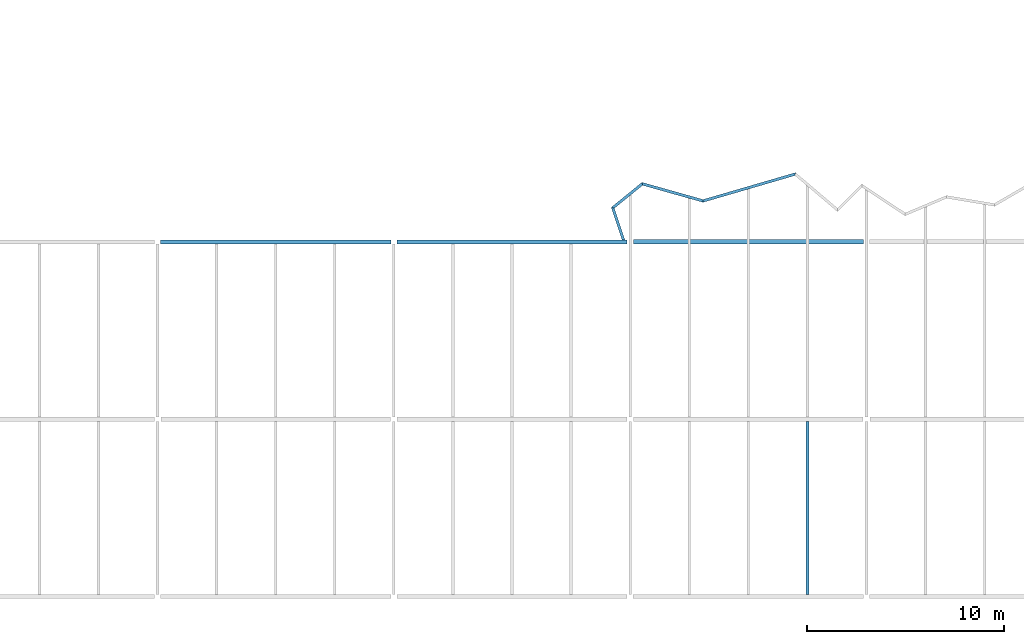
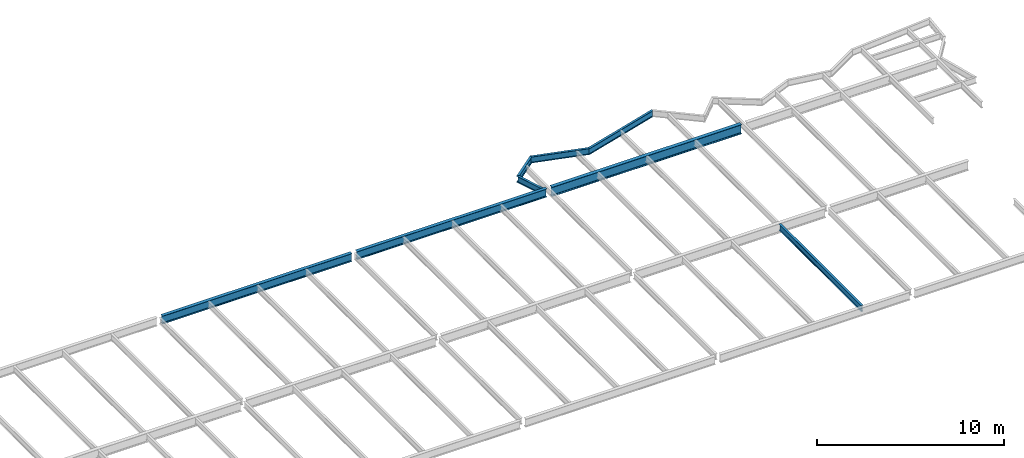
# One storey, part 17 of 21: 8 beams.
"""IFC2X3 building model written with IfcOpenShell, lengths in millimetres."""

import ifcopenshell
import ifcopenshell.guid

model = None  # the IFC model being written
_history = None  # IfcOwnerHistory: only IFC2X3 demands one
_inside = {}  # id of a spatial element -> (the spatial element, [elements in it])
_under = {}  # id of a project, library or spatial element -> (it, [spatial elements below it])
_declared = {}  # id of a project -> (the project, [libraries it declares])
_typed = {}  # id of a type object -> (the type object, [elements of that type])
_made_of = {}  # id of a material, layer set ... -> (it, [elements and type objects made of it])


def new_model(schema):
    """Start an empty IFC model of exactly this schema.

    Asked for "IFC4X3", IfcOpenShell would pick the latest addendum, in which some entities
    have other attributes; the version numbers below select the first issue.
    IFC2X3 requires an IfcOwnerHistory on every rooted entity: one is made here for all.
    """
    global model, _history
    if schema == "IFC4X3":
        model = ifcopenshell.file(schema_version=(4, 3, 0, 0))
    else:
        model = ifcopenshell.file(schema=schema)
    _inside.clear()
    _under.clear()
    _declared.clear()
    _typed.clear()
    _made_of.clear()
    _history = None
    if model.schema == "IFC2X3":
        org = make("IfcOrganization", Name="unknown")
        user = make(
            "IfcPersonAndOrganization",
            ThePerson=make("IfcPerson", FamilyName="unknown"),
            TheOrganization=org,
        )
        app = make(
            "IfcApplication",
            ApplicationDeveloper=org,
            Version="unknown",
            ApplicationFullName="unknown",
            ApplicationIdentifier="unknown",
        )
        _history = make(
            "IfcOwnerHistory",
            OwningUser=user,
            OwningApplication=app,
            ChangeAction="ADDED",
            CreationDate=0,
        )
    return model


def make(cls, **values):
    """One entity of the class cls with the attributes given. An attribute that is None is left unset."""
    return model.create_entity(
        cls, **{name: value for name, value in values.items() if value is not None}
    )


def rooted(cls, **values):
    """An entity with a GlobalId (a new one), such as an element, a storey or a relation."""
    return make(cls, GlobalId=ifcopenshell.guid.new(), OwnerHistory=_history, **values)


def si_unit(unit_type, name, prefix=None):
    """IfcSIUnit, for example si_unit("LENGTHUNIT", "METRE", prefix="MILLI")."""
    return make("IfcSIUnit", UnitType=unit_type, Prefix=prefix, Name=name)


def assignment(units):
    """IfcUnitAssignment: the units of a project."""
    return None if units is None else make("IfcUnitAssignment", Units=units)


def point(xyz):
    """IfcCartesianPoint."""
    return None if xyz is None else make("IfcCartesianPoint", Coordinates=xyz)


def direction(xyz):
    """IfcDirection."""
    return None if xyz is None else make("IfcDirection", DirectionRatios=xyz)


def frame(location, z_axis=None, x_axis=None):
    """IfcAxis2Placement3D, a coordinate frame: its origin and axes. An axis left out is left unset."""
    return make(
        "IfcAxis2Placement3D",
        Location=point(location),
        Axis=direction(z_axis),
        RefDirection=direction(x_axis),
    )


def origin():
    """The frame at (0, 0, 0) with its axes left unset."""
    return frame((0.0, 0.0, 0.0))


def place(relative_to, where):
    """IfcLocalPlacement: puts the frame where relative to a parent placement (None: the world)."""
    return make(
        "IfcLocalPlacement", PlacementRelTo=relative_to, RelativePlacement=where
    )


def context(
    kind, dimensions, precision=None, world=None, true_north=None, identifier=None
):
    """IfcGeometricRepresentationContext, for example the 3D "Model" context."""
    return make(
        "IfcGeometricRepresentationContext",
        ContextIdentifier=identifier,
        ContextType=kind,
        CoordinateSpaceDimension=dimensions,
        Precision=precision,
        WorldCoordinateSystem=world,
        TrueNorth=true_north,
    )


def project(units=None, contexts=None):
    """IfcProject with its units and contexts."""
    return rooted(
        "IfcProject",
        Name="project",
        RepresentationContexts=contexts,
        UnitsInContext=assignment(units),
    )


def spatial(cls, under=None, at=None, **own):
    """A site, building, storey or space (cls), placed at a placement, below another one or the project."""
    s = rooted(cls, ObjectPlacement=at, **own)
    if under is not None:
        _under.setdefault(under.id(), (under, []))[1].append(s)
    return s


def faces_of(points, faces, orient=None, outer=None):
    """IfcFace entities. A face is a list of loops; a loop is a list of indices into points, from 0.

    orient and outer hold one flag for each loop. By default every Orientation is true, the
    first loop of a face is its IfcFaceOuterBound and the others are IfcFaceBound.
    """
    made = []
    for i, loops in enumerate(faces):
        bounds = []
        for j, loop in enumerate(loops):
            is_outer = j == 0 if outer is None else outer[i][j]
            bounds.append(
                make(
                    "IfcFaceOuterBound" if is_outer else "IfcFaceBound",
                    Bound=make("IfcPolyLoop", Polygon=[points[k] for k in loop]),
                    Orientation=True if orient is None else orient[i][j],
                )
            )
        made.append(make("IfcFace", Bounds=bounds))
    return made


def faceted_brep(points, faces, orient=None, outer=None, voids=None):
    """IfcFacetedBrep: a solid bounded by flat faces; with voids (closed shells), ...WithVoids."""
    shared = [point(p) for p in points]
    hull = make("IfcClosedShell", CfsFaces=faces_of(shared, faces, orient, outer))
    if voids is None:
        return make("IfcFacetedBrep", Outer=hull)
    return make(
        "IfcFacetedBrepWithVoids",
        Outer=hull,
        Voids=[
            make(cls, CfsFaces=faces_of(shared, fs, o, b)) for cls, fs, o, b in voids
        ],
    )


def shape(context_of_items, identifier, shape_type, items):
    """IfcShapeRepresentation: the items that make up one representation, for example the "Body"."""
    return make(
        "IfcShapeRepresentation",
        ContextOfItems=context_of_items,
        RepresentationIdentifier=identifier,
        RepresentationType=shape_type,
        Items=items,
    )


def material(Name=None, Category=None):
    """IfcMaterial."""
    return make("IfcMaterial", Name=Name, Category=Category)


def made_of(thing, what):
    """Note that an element or type object is made of a material, layer set ...; save() writes the relation."""
    if what is not None:
        _made_of.setdefault(what.id(), (what, []))[1].append(thing)
    return thing


def element(
    cls,
    number,
    at=None,
    inside=None,
    cuts=None,
    type_object=None,
    material=None,
    context=None,
    identifier="Body",
    shape_type=None,
    held_by="IfcProductDefinitionShape",
    body=None,
    shapes=None,
    **own,
):
    """One element of the class cls, such as IfcWall. Its Tag is "e" and its number.

    at: its placement. inside: the storey or other place that contains it. cuts: it is an
    opening in that element (IfcRelVoidsElement). A single representation is given by context,
    identifier, shape_type and body (its items); several are given by shapes. held_by: the class
    of the entity that holds the representations. save() writes the other relations.
    """
    e = rooted(cls, Tag="e%d" % number, ObjectPlacement=at, **own)
    if body is not None:
        shapes = [shape(context, identifier, shape_type, body)]
    if shapes is not None:
        e.Representation = make(held_by, Representations=shapes)
    if inside is not None:
        _inside.setdefault(inside.id(), (inside, []))[1].append(e)
    if cuts is not None:
        rooted(
            "IfcRelVoidsElement", RelatingBuildingElement=cuts, RelatedOpeningElement=e
        )
    if type_object is not None:
        _typed.setdefault(type_object.id(), (type_object, []))[1].append(e)
    return made_of(e, material)


def aggregate(whole, parts):
    """IfcRelAggregates: a whole, such as a stair, and the parts it consists of."""
    return rooted("IfcRelAggregates", RelatingObject=whole, RelatedObjects=parts)


def save(model, path):
    """Write the relations noted so far, then the file.

    IfcRelAggregates (storeys below a building ...), IfcRelContainedInSpatialStructure (elements
    in a storey), IfcRelDefinesByType, IfcRelAssociatesMaterial and IfcRelDeclares: one each for
    every whole, place, type object, material and project.
    """
    for whole, parts in _under.values():
        aggregate(whole, parts)
    for where, things in _inside.values():
        rooted(
            "IfcRelContainedInSpatialStructure",
            RelatedElements=things,
            RelatingStructure=where,
        )
    for kind, things in _typed.values():
        rooted("IfcRelDefinesByType", RelatedObjects=things, RelatingType=kind)
    for what, things in _made_of.values():
        rooted("IfcRelAssociatesMaterial", RelatedObjects=things, RelatingMaterial=what)
    for by, libraries in _declared.values():
        rooted("IfcRelDeclares", RelatingContext=by, RelatedDefinitions=libraries)
    model.write(path)


model = new_model("IFC2X3")

# Units and contexts
context_of_model = context(None, 3, precision=1e-05, world=origin())
ifc_project = project(units=[si_unit("LENGTHUNIT", "METRE", prefix="MILLI")], contexts=[context_of_model])

# Building, storey
building = spatial("IfcBuilding", under=ifc_project, Name="Building", CompositionType="ELEMENT")
storey = spatial("IfcBuildingStorey", under=building, Name="FL3-FRM", CompositionType="ELEMENT")

# Beams
ifc_material_1 = material(Name="A992")
beam_1_placement = place(None, origin())
element("IfcBeam", 1, at=beam_1_placement, inside=storey, material=ifc_material_1, Name="Column476", context=context_of_model, shape_type="Brep", body=[
    faceted_brep([(36154.0, 26895.5, 8345.0), (36154.0, 27104.5, 8345.0), (47846.0, 27104.5, 8345.0), (47846.0, 26895.5, 8345.0), (36154.0, 27104.5, 8358.3), (47846.0, 27104.5, 8358.3), (36154.0, 27017.4, 8358.3), (47846.0, 27017.4, 8358.3), (36154.0, 27014.2, 8358.73), (47846.0, 27014.2, 8358.73), (36154.0, 27011.1, 8360.0), (47846.0, 27011.1, 8360.0), (36154.0, 27008.5, 8362.02), (47846.0, 27008.5, 8362.02), (36154.0, 27006.5, 8364.65), (47846.0, 27006.5, 8364.65), (36154.0, 27005.2, 8367.71), (47846.0, 27005.2, 8367.71), (36154.0, 27004.8, 8371.0), (47846.0, 27004.8, 8371.0), (36154.0, 27004.8, 8847.0), (47846.0, 27004.8, 8847.0), (36154.0, 27005.2, 8850.29), (47846.0, 27005.2, 8850.29), (36154.0, 27006.5, 8853.35), (47846.0, 27006.5, 8853.35), (36154.0, 27008.5, 8855.98), (47846.0, 27008.5, 8855.98), (36154.0, 27011.1, 8858.0), (47846.0, 27011.1, 8858.0), (36154.0, 27014.2, 8859.27), (47846.0, 27014.2, 8859.27), (36154.0, 27017.4, 8859.7), (47846.0, 27017.4, 8859.7), (36154.0, 27104.5, 8859.7), (47846.0, 27104.5, 8859.7), (36154.0, 27104.5, 8873.0), (47846.0, 27104.5, 8873.0), (36154.0, 26895.5, 8873.0), (47846.0, 26895.5, 8873.0), (36154.0, 26895.5, 8859.7), (47846.0, 26895.5, 8859.7), (36154.0, 26982.6, 8859.7), (47846.0, 26982.6, 8859.7), (36154.0, 26985.8, 8859.27), (47846.0, 26985.8, 8859.27), (36154.0, 26988.9, 8858.0), (47846.0, 26988.9, 8858.0), (36154.0, 26991.5, 8855.98), (47846.0, 26991.5, 8855.98), (36154.0, 26993.5, 8853.35), (47846.0, 26993.5, 8853.35), (36154.0, 26994.8, 8850.29), (47846.0, 26994.8, 8850.29), (36154.0, 26995.3, 8847.0), (47846.0, 26995.2, 8847.0), (36154.0, 26995.3, 8371.0), (47846.0, 26995.3, 8371.0), (36154.0, 26994.8, 8367.71), (47846.0, 26994.8, 8367.71), (36154.0, 26993.5, 8364.65), (47846.0, 26993.5, 8364.65), (36154.0, 26991.5, 8362.02), (47846.0, 26991.5, 8362.02), (36154.0, 26988.9, 8360.0), (47846.0, 26988.9, 8360.0), (36154.0, 26985.8, 8358.73), (47846.0, 26985.8, 8358.73), (36154.0, 26982.6, 8358.3), (47846.0, 26982.6, 8358.3), (36154.0, 26895.5, 8358.3), (47846.0, 26895.5, 8358.3)], [[[0, 1, 2, 3]], [[1, 4, 5, 2]], [[4, 6, 7, 5]], [[6, 8, 9, 7]], [[8, 10, 11, 9]], [[10, 12, 13, 11]], [[12, 14, 15, 13]], [[14, 16, 17, 15]], [[16, 18, 19, 17]], [[18, 20, 21, 19]], [[20, 22, 23, 21]], [[22, 24, 25, 23]], [[24, 26, 27, 25]], [[26, 28, 29, 27]], [[28, 30, 31, 29]], [[30, 32, 33, 31]], [[32, 34, 35, 33]], [[34, 36, 37, 35]], [[36, 38, 39, 37]], [[38, 40, 41, 39]], [[40, 42, 43, 41]], [[42, 44, 45, 43]], [[44, 46, 47, 45]], [[46, 48, 49, 47]], [[48, 50, 51, 49]], [[50, 52, 53, 51]], [[52, 54, 55, 53]], [[54, 56, 57, 55]], [[56, 58, 59, 57]], [[58, 60, 61, 59]], [[60, 62, 63, 61]], [[62, 64, 65, 63]], [[64, 66, 67, 65]], [[66, 68, 69, 67]], [[68, 70, 71, 69]], [[70, 0, 3, 71]], [[0, 70, 68, 66, 64, 62, 60, 58, 56, 54, 52, 50, 48, 46, 44, 42, 40, 38, 36, 34, 32, 30, 28, 26, 24, 22, 20, 18, 16, 14, 12, 10, 8, 6, 4, 1]], [[3, 2, 5, 7, 9, 11, 13, 15, 17, 19, 21, 23, 25, 27, 29, 31, 33, 35, 37, 39, 41, 43, 45, 47, 49, 51, 53, 55, 57, 59, 61, 63, 65, 67, 69, 71]]]),
])
ifc_material_2 = material(Name="A992")
beam_2_placement = place(None, origin())
element("IfcBeam", 2, at=beam_2_placement, inside=storey, material=ifc_material_2, Name="Column479", context=context_of_model, shape_type="Brep", body=[
    faceted_brep([(48154.0, 26895.5, 8345.0), (48154.0, 27104.5, 8345.0), (59843.0, 27104.5, 8345.0), (59843.0, 26895.5, 8345.0), (48154.0, 27104.5, 8358.3), (59843.0, 27104.5, 8358.3), (48154.0, 27017.4, 8358.3), (59843.0, 27017.4, 8358.3), (48154.0, 27014.2, 8358.73), (59843.0, 27014.2, 8358.73), (48154.0, 27011.1, 8360.0), (59843.0, 27011.1, 8360.0), (48154.0, 27008.5, 8362.02), (59843.0, 27008.5, 8362.02), (48154.0, 27006.5, 8364.65), (59843.0, 27006.5, 8364.65), (48154.0, 27005.2, 8367.71), (59843.0, 27005.2, 8367.71), (48154.0, 27004.8, 8371.0), (59843.0, 27004.8, 8371.0), (48154.0, 27004.8, 8847.0), (59843.0, 27004.8, 8847.0), (48154.0, 27005.2, 8850.29), (59843.0, 27005.2, 8850.29), (48154.0, 27006.5, 8853.35), (59843.0, 27006.5, 8853.35), (48154.0, 27008.5, 8855.98), (59843.0, 27008.5, 8855.98), (48154.0, 27011.1, 8858.0), (59843.0, 27011.1, 8858.0), (48154.0, 27014.2, 8859.27), (59843.0, 27014.2, 8859.27), (48154.0, 27017.4, 8859.7), (59843.0, 27017.4, 8859.7), (48154.0, 27104.5, 8859.7), (59843.0, 27104.5, 8859.7), (48154.0, 27104.5, 8873.0), (59843.0, 27104.5, 8873.0), (48154.0, 26895.5, 8873.0), (59843.0, 26895.5, 8873.0), (48154.0, 26895.5, 8859.7), (59843.0, 26895.5, 8859.7), (48154.0, 26982.6, 8859.7), (59843.0, 26982.6, 8859.7), (48154.0, 26985.8, 8859.27), (59843.0, 26985.8, 8859.27), (48154.0, 26988.9, 8858.0), (59843.0, 26988.9, 8858.0), (48154.0, 26991.5, 8855.98), (59843.0, 26991.5, 8855.98), (48154.0, 26993.5, 8853.35), (59843.0, 26993.5, 8853.35), (48154.0, 26994.8, 8850.29), (59843.0, 26994.8, 8850.29), (48154.0, 26995.3, 8847.0), (59843.0, 26995.3, 8847.0), (48154.0, 26995.3, 8371.0), (59843.0, 26995.3, 8371.0), (48154.0, 26994.8, 8367.71), (59843.0, 26994.8, 8367.71), (48154.0, 26993.5, 8364.65), (59843.0, 26993.5, 8364.65), (48154.0, 26991.5, 8362.02), (59843.0, 26991.5, 8362.02), (48154.0, 26988.9, 8360.0), (59843.0, 26988.9, 8360.0), (48154.0, 26985.8, 8358.73), (59843.0, 26985.8, 8358.73), (48154.0, 26982.6, 8358.3), (59843.0, 26982.6, 8358.3), (48154.0, 26895.5, 8358.3), (59843.0, 26895.5, 8358.3)], [[[0, 1, 2, 3]], [[1, 4, 5, 2]], [[4, 6, 7, 5]], [[6, 8, 9, 7]], [[8, 10, 11, 9]], [[10, 12, 13, 11]], [[12, 14, 15, 13]], [[14, 16, 17, 15]], [[16, 18, 19, 17]], [[18, 20, 21, 19]], [[20, 22, 23, 21]], [[22, 24, 25, 23]], [[24, 26, 27, 25]], [[26, 28, 29, 27]], [[28, 30, 31, 29]], [[30, 32, 33, 31]], [[32, 34, 35, 33]], [[34, 36, 37, 35]], [[36, 38, 39, 37]], [[38, 40, 41, 39]], [[40, 42, 43, 41]], [[42, 44, 45, 43]], [[44, 46, 47, 45]], [[46, 48, 49, 47]], [[48, 50, 51, 49]], [[50, 52, 53, 51]], [[52, 54, 55, 53]], [[54, 56, 57, 55]], [[56, 58, 59, 57]], [[58, 60, 61, 59]], [[60, 62, 63, 61]], [[62, 64, 65, 63]], [[64, 66, 67, 65]], [[66, 68, 69, 67]], [[68, 70, 71, 69]], [[70, 0, 3, 71]], [[0, 70, 68, 66, 64, 62, 60, 58, 56, 54, 52, 50, 48, 46, 44, 42, 40, 38, 36, 34, 32, 30, 28, 26, 24, 22, 20, 18, 16, 14, 12, 10, 8, 6, 4, 1]], [[3, 2, 5, 7, 9, 11, 13, 15, 17, 19, 21, 23, 25, 27, 29, 31, 33, 35, 37, 39, 41, 43, 45, 47, 49, 51, 53, 55, 57, 59, 61, 63, 65, 67, 69, 71]]]),
])
ifc_material_3 = material(Name="A992")
beam_3_placement = place(None, origin())
element("IfcBeam", 3, at=beam_3_placement, inside=storey, material=ifc_material_3, Name="B485", context=context_of_model, shape_type="Brep", body=[
    faceted_brep([(69070.0, 9104.5, 8474.0), (68930.0, 9104.5, 8474.0), (68930.0, 17885.5, 8474.0), (69070.0, 17885.5, 8474.0), (68930.0, 9104.5, 8482.8), (68930.0, 17885.5, 8482.8), (68986.6, 9104.5, 8482.8), (68986.6, 17885.5, 8482.8), (68989.2, 9104.5, 8483.15), (68989.2, 17885.5, 8483.15), (68991.7, 9104.5, 8484.17), (68991.7, 17885.5, 8484.17), (68993.8, 9104.5, 8485.79), (68993.8, 17885.5, 8485.79), (68995.4, 9104.5, 8487.9), (68995.4, 17885.5, 8487.9), (68996.5, 9104.5, 8490.36), (68996.5, 17885.5, 8490.36), (68996.8, 9104.5, 8493.0), (68996.8, 17885.5, 8493.0), (68996.8, 9104.5, 8854.0), (68996.8, 17885.5, 8854.0), (68996.5, 9104.5, 8856.64), (68996.5, 17885.5, 8856.64), (68995.4, 9104.5, 8859.1), (68995.4, 17885.5, 8859.1), (68993.8, 9104.5, 8861.21), (68993.8, 17885.5, 8861.21), (68991.7, 9104.5, 8862.83), (68991.7, 17885.5, 8862.83), (68989.2, 9104.5, 8863.85), (68989.2, 17885.5, 8863.85), (68986.6, 9104.5, 8864.2), (68986.6, 17885.5, 8864.2), (68930.0, 9104.5, 8864.2), (68930.0, 17885.5, 8864.2), (68930.0, 9104.5, 8873.0), (68930.0, 17885.5, 8873.0), (69070.0, 9104.5, 8873.0), (69070.0, 17885.5, 8873.0), (69070.0, 9104.5, 8864.2), (69070.0, 17885.5, 8864.2), (69013.4, 9104.5, 8864.2), (69013.4, 17885.5, 8864.2), (69010.8, 9104.5, 8863.85), (69010.8, 17885.5, 8863.85), (69008.3, 9104.5, 8862.83), (69008.3, 17885.5, 8862.83), (69006.2, 9104.5, 8861.21), (69006.2, 17885.5, 8861.21), (69004.6, 9104.5, 8859.1), (69004.6, 17885.5, 8859.1), (69003.5, 9104.5, 8856.64), (69003.5, 17885.5, 8856.64), (69003.2, 9104.5, 8854.0), (69003.2, 17885.5, 8854.0), (69003.2, 9104.5, 8493.0), (69003.2, 17885.5, 8493.0), (69003.5, 9104.5, 8490.36), (69003.5, 17885.5, 8490.36), (69004.6, 9104.5, 8487.9), (69004.6, 17885.5, 8487.9), (69006.2, 9104.5, 8485.79), (69006.2, 17885.5, 8485.79), (69008.3, 9104.5, 8484.17), (69008.3, 17885.5, 8484.17), (69010.8, 9104.5, 8483.15), (69010.8, 17885.5, 8483.15), (69013.4, 9104.5, 8482.8), (69013.4, 17885.5, 8482.8), (69070.0, 9104.5, 8482.8), (69070.0, 17885.5, 8482.8)], [[[0, 1, 2, 3]], [[1, 4, 5, 2]], [[4, 6, 7, 5]], [[6, 8, 9, 7]], [[8, 10, 11, 9]], [[10, 12, 13, 11]], [[12, 14, 15, 13]], [[14, 16, 17, 15]], [[16, 18, 19, 17]], [[18, 20, 21, 19]], [[20, 22, 23, 21]], [[22, 24, 25, 23]], [[24, 26, 27, 25]], [[26, 28, 29, 27]], [[28, 30, 31, 29]], [[30, 32, 33, 31]], [[32, 34, 35, 33]], [[34, 36, 37, 35]], [[36, 38, 39, 37]], [[38, 40, 41, 39]], [[40, 42, 43, 41]], [[42, 44, 45, 43]], [[44, 46, 47, 45]], [[46, 48, 49, 47]], [[48, 50, 51, 49]], [[50, 52, 53, 51]], [[52, 54, 55, 53]], [[54, 56, 57, 55]], [[56, 58, 59, 57]], [[58, 60, 61, 59]], [[60, 62, 63, 61]], [[62, 64, 65, 63]], [[64, 66, 67, 65]], [[66, 68, 69, 67]], [[68, 70, 71, 69]], [[70, 0, 3, 71]], [[0, 70, 68, 66, 64, 62, 60, 58, 56, 54, 52, 50, 48, 46, 44, 42, 40, 38, 36, 34, 32, 30, 28, 26, 24, 22, 20, 18, 16, 14, 12, 10, 8, 6, 4, 1]], [[3, 2, 5, 7, 9, 11, 13, 15, 17, 19, 21, 23, 25, 27, 29, 31, 33, 35, 37, 39, 41, 43, 45, 47, 49, 51, 53, 55, 57, 59, 61, 63, 65, 67, 69, 71]]]),
])
ifc_material_4 = material(Name="A992")
beam_4_placement = place(None, origin())
element("IfcBeam", 4, at=beam_4_placement, inside=storey, material=ifc_material_4, Name="Column482", context=context_of_model, shape_type="Brep", body=[
    faceted_brep([(60157.0, 26885.5, 8261.0), (60157.0, 27114.5, 8261.0), (71843.0, 27114.5, 8261.0), (71843.0, 26885.5, 8261.0), (60157.0, 27114.5, 8280.6), (71843.0, 27114.5, 8280.6), (60157.0, 27018.6, 8280.6), (71843.0, 27018.6, 8280.6), (60157.0, 27015.4, 8281.03), (71843.0, 27015.4, 8281.03), (60157.0, 27012.3, 8282.3), (71843.0, 27012.3, 8282.3), (60157.0, 27009.7, 8284.32), (71843.0, 27009.7, 8284.32), (60157.0, 27007.7, 8286.95), (71843.0, 27007.7, 8286.95), (60157.0, 27006.4, 8290.01), (71843.0, 27006.4, 8290.01), (60157.0, 27005.9, 8293.3), (71843.0, 27005.9, 8293.3), (60157.0, 27005.9, 8840.7), (71843.0, 27005.9, 8840.7), (60157.0, 27006.4, 8843.99), (71843.0, 27006.4, 8843.99), (60157.0, 27007.7, 8847.05), (71843.0, 27007.7, 8847.05), (60157.0, 27009.7, 8849.68), (71843.0, 27009.7, 8849.68), (60157.0, 27012.3, 8851.7), (71843.0, 27012.3, 8851.7), (60157.0, 27015.4, 8852.97), (71843.0, 27015.4, 8852.97), (60157.0, 27018.6, 8853.4), (71843.0, 27018.6, 8853.4), (60157.0, 27114.5, 8853.4), (71843.0, 27114.5, 8853.4), (60157.0, 27114.5, 8873.0), (71843.0, 27114.5, 8873.0), (60157.0, 26885.5, 8873.0), (71843.0, 26885.5, 8873.0), (60157.0, 26885.5, 8853.4), (71843.0, 26885.5, 8853.4), (60157.0, 26981.4, 8853.4), (71843.0, 26981.4, 8853.4), (60157.0, 26984.6, 8852.97), (71843.0, 26984.6, 8852.97), (60157.0, 26987.7, 8851.7), (71843.0, 26987.7, 8851.7), (60157.0, 26990.3, 8849.68), (71843.0, 26990.3, 8849.68), (60157.0, 26992.3, 8847.05), (71843.0, 26992.3, 8847.05), (60157.0, 26993.6, 8843.99), (71843.0, 26993.6, 8843.99), (60157.0, 26994.1, 8840.7), (71843.0, 26994.1, 8840.7), (60157.0, 26994.1, 8293.3), (71843.0, 26994.1, 8293.3), (60157.0, 26993.6, 8290.01), (71843.0, 26993.6, 8290.01), (60157.0, 26992.3, 8286.95), (71843.0, 26992.3, 8286.95), (60157.0, 26990.3, 8284.32), (71843.0, 26990.3, 8284.32), (60157.0, 26987.7, 8282.3), (71843.0, 26987.7, 8282.3), (60157.0, 26984.6, 8281.03), (71843.0, 26984.6, 8281.03), (60157.0, 26981.4, 8280.6), (71843.0, 26981.4, 8280.6), (60157.0, 26885.5, 8280.6), (71843.0, 26885.5, 8280.6)], [[[0, 1, 2, 3]], [[1, 4, 5, 2]], [[4, 6, 7, 5]], [[6, 8, 9, 7]], [[8, 10, 11, 9]], [[10, 12, 13, 11]], [[12, 14, 15, 13]], [[14, 16, 17, 15]], [[16, 18, 19, 17]], [[18, 20, 21, 19]], [[20, 22, 23, 21]], [[22, 24, 25, 23]], [[24, 26, 27, 25]], [[26, 28, 29, 27]], [[28, 30, 31, 29]], [[30, 32, 33, 31]], [[32, 34, 35, 33]], [[34, 36, 37, 35]], [[36, 38, 39, 37]], [[38, 40, 41, 39]], [[40, 42, 43, 41]], [[42, 44, 45, 43]], [[44, 46, 47, 45]], [[46, 48, 49, 47]], [[48, 50, 51, 49]], [[50, 52, 53, 51]], [[52, 54, 55, 53]], [[54, 56, 57, 55]], [[56, 58, 59, 57]], [[58, 60, 61, 59]], [[60, 62, 63, 61]], [[62, 64, 65, 63]], [[64, 66, 67, 65]], [[66, 68, 69, 67]], [[68, 70, 71, 69]], [[70, 0, 3, 71]], [[0, 70, 68, 66, 64, 62, 60, 58, 56, 54, 52, 50, 48, 46, 44, 42, 40, 38, 36, 34, 32, 30, 28, 26, 24, 22, 20, 18, 16, 14, 12, 10, 8, 6, 4, 1]], [[3, 2, 5, 7, 9, 11, 13, 15, 17, 19, 21, 23, 25, 27, 29, 31, 33, 35, 37, 39, 41, 43, 45, 47, 49, 51, 53, 55, 57, 59, 61, 63, 65, 67, 69, 71]]]),
])
ifc_material_5 = material(Name="A992")
beam_5_placement = place(None, origin())
element("IfcBeam", 5, at=beam_5_placement, inside=storey, material=ifc_material_5, Name="B1054", context=context_of_model, shape_type="Brep", body=[
    faceted_brep([(63702.9, 29007.1, 8474.0), (63702.2, 29152.7, 8474.0), (68398.0, 30522.3, 8474.0), (68364.8, 30366.8, 8474.0), (63702.2, 29152.7, 8482.8), (68398.0, 30522.3, 8482.8), (63702.4, 29093.8, 8482.8), (68384.6, 30459.5, 8482.8), (63702.4, 29092.3, 8482.9), (68384.2, 30457.9, 8482.9), (63702.5, 29090.8, 8483.21), (68383.9, 30456.3, 8483.21), (63702.5, 29089.4, 8483.72), (68383.6, 30454.8, 8483.72), (63702.5, 29088.1, 8484.42), (68383.3, 30453.4, 8484.41), (63702.5, 29086.9, 8485.29), (68383.0, 30452.1, 8485.28), (63702.5, 29085.8, 8486.32), (68382.8, 30450.9, 8486.31), (63702.5, 29084.9, 8487.48), (68382.6, 30449.9, 8487.47), (63702.5, 29084.2, 8488.76), (68382.4, 30449.2, 8488.76), (63702.5, 29083.7, 8490.12), (68382.3, 30448.6, 8490.12), (63702.5, 29083.3, 8491.55), (68382.2, 30448.3, 8491.54), (63702.5, 29083.2, 8493.0), (68382.2, 30448.1, 8493.0), (63702.5, 29083.2, 8854.0), (68382.2, 30448.1, 8854.0), (63702.5, 29083.3, 8855.45), (68382.2, 30448.3, 8855.46), (63702.5, 29083.7, 8856.88), (68382.3, 30448.6, 8856.88), (63702.5, 29084.2, 8858.24), (68382.4, 30449.2, 8858.24), (63702.5, 29084.9, 8859.52), (68382.6, 30449.9, 8859.53), (63702.5, 29085.8, 8860.68), (68382.8, 30450.9, 8860.69), (63702.5, 29086.9, 8861.71), (68383.0, 30452.1, 8861.72), (63702.5, 29088.1, 8862.58), (68383.3, 30453.4, 8862.59), (63702.5, 29089.4, 8863.28), (68383.6, 30454.8, 8863.28), (63702.5, 29090.8, 8863.79), (68383.9, 30456.3, 8863.79), (63702.4, 29092.3, 8864.1), (68384.2, 30457.9, 8864.1), (63702.4, 29093.8, 8864.2), (68384.6, 30459.5, 8864.2), (63702.2, 29152.7, 8864.2), (68398.0, 30522.3, 8864.2), (63702.2, 29152.7, 8873.0), (68398.0, 30522.3, 8873.0), (63702.9, 29007.1, 8873.0), (68364.8, 30366.8, 8873.0), (63702.9, 29007.1, 8864.2), (68364.8, 30366.8, 8864.2), (63702.6, 29066.0, 8864.2), (68378.2, 30429.7, 8864.2), (63702.6, 29067.5, 8864.1), (68378.6, 30431.3, 8864.1), (63702.6, 29068.9, 8863.79), (68378.9, 30432.9, 8863.79), (63702.5, 29070.4, 8863.28), (68379.2, 30434.4, 8863.28), (63702.5, 29071.7, 8862.58), (68379.5, 30435.8, 8862.59), (63702.5, 29072.9, 8861.71), (68379.8, 30437.1, 8861.72), (63702.5, 29074.0, 8860.68), (68380.1, 30438.2, 8860.69), (63702.5, 29074.9, 8859.52), (68380.3, 30439.2, 8859.53), (63702.5, 29075.6, 8858.24), (68380.4, 30440.0, 8858.24), (63702.5, 29076.1, 8856.88), (68380.6, 30440.6, 8856.88), (63702.5, 29076.5, 8855.45), (68380.6, 30440.9, 8855.46), (63702.5, 29076.6, 8854.0), (68380.7, 30441.0, 8854.0), (63702.5, 29076.6, 8493.0), (68380.7, 30441.0, 8493.0), (63702.5, 29076.5, 8491.55), (68380.6, 30440.9, 8491.54), (63702.5, 29076.1, 8490.12), (68380.6, 30440.6, 8490.12), (63702.5, 29075.6, 8488.76), (68380.4, 30440.0, 8488.76), (63702.5, 29074.9, 8487.48), (68380.3, 30439.2, 8487.47), (63702.5, 29074.0, 8486.32), (68380.1, 30438.2, 8486.31), (63702.5, 29072.9, 8485.29), (68379.8, 30437.1, 8485.28), (63702.5, 29071.7, 8484.42), (68379.5, 30435.8, 8484.41), (63702.5, 29070.4, 8483.72), (68379.2, 30434.4, 8483.72), (63702.6, 29068.9, 8483.21), (68378.9, 30432.9, 8483.21), (63702.6, 29067.5, 8482.9), (68378.6, 30431.3, 8482.9), (63702.6, 29066.0, 8482.8), (68378.2, 30429.7, 8482.8), (63702.9, 29007.1, 8482.8), (68364.8, 30366.8, 8482.8)], [[[0, 1, 2, 3]], [[1, 4, 5, 2]], [[4, 6, 7, 5]], [[6, 8, 9, 7]], [[8, 10, 11, 9]], [[10, 12, 13, 11]], [[12, 14, 15, 13]], [[14, 16, 17, 15]], [[16, 18, 19, 17]], [[18, 20, 21, 19]], [[20, 22, 23, 21]], [[22, 24, 25, 23]], [[24, 26, 27, 25]], [[26, 28, 29, 27]], [[28, 30, 31, 29]], [[30, 32, 33, 31]], [[32, 34, 35, 33]], [[34, 36, 37, 35]], [[36, 38, 39, 37]], [[38, 40, 41, 39]], [[40, 42, 43, 41]], [[42, 44, 45, 43]], [[44, 46, 47, 45]], [[46, 48, 49, 47]], [[48, 50, 51, 49]], [[50, 52, 53, 51]], [[52, 54, 55, 53]], [[54, 56, 57, 55]], [[56, 58, 59, 57]], [[58, 60, 61, 59]], [[60, 62, 63, 61]], [[62, 64, 65, 63]], [[64, 66, 67, 65]], [[66, 68, 69, 67]], [[68, 70, 71, 69]], [[70, 72, 73, 71]], [[72, 74, 75, 73]], [[74, 76, 77, 75]], [[76, 78, 79, 77]], [[78, 80, 81, 79]], [[80, 82, 83, 81]], [[82, 84, 85, 83]], [[84, 86, 87, 85]], [[86, 88, 89, 87]], [[88, 90, 91, 89]], [[90, 92, 93, 91]], [[92, 94, 95, 93]], [[94, 96, 97, 95]], [[96, 98, 99, 97]], [[98, 100, 101, 99]], [[100, 102, 103, 101]], [[102, 104, 105, 103]], [[104, 106, 107, 105]], [[106, 108, 109, 107]], [[108, 110, 111, 109]], [[110, 0, 3, 111]], [[0, 110, 108, 106, 104, 102, 100, 98, 96, 94, 92, 90, 88, 86, 84, 82, 80, 78, 76, 74, 72, 70, 68, 66, 64, 62, 60, 58, 56, 54, 52, 50, 48, 46, 44, 42, 40, 38, 36, 34, 32, 30, 28, 26, 24, 22, 20, 18, 16, 14, 12, 10, 8, 6, 4, 1]], [[3, 2, 5, 7, 9, 11, 13, 15, 17, 19, 21, 23, 25, 27, 29, 31, 33, 35, 37, 39, 41, 43, 45, 47, 49, 51, 53, 55, 57, 59, 61, 63, 65, 67, 69, 71, 73, 75, 77, 79, 81, 83, 85, 87, 89, 91, 93, 95, 97, 99, 101, 103, 105, 107, 109, 111]]]),
])
ifc_material_6 = material(Name="A992")
beam_6_placement = place(None, origin())
element("IfcBeam", 6, at=beam_6_placement, inside=storey, material=ifc_material_6, Name="B1057", context=context_of_model, shape_type="Brep", body=[
    faceted_brep([(60630.3, 29871.2, 8474.0), (60598.3, 30025.7, 8474.0), (63702.2, 29152.7, 8474.0), (63702.9, 29007.1, 8474.0), (60598.3, 30025.7, 8482.8), (63702.2, 29152.7, 8482.8), (60611.3, 29963.2, 8482.8), (63702.4, 29093.8, 8482.8), (60611.6, 29961.6, 8482.9), (63702.4, 29092.3, 8482.9), (60611.9, 29960.1, 8483.21), (63702.5, 29090.8, 8483.21), (60612.2, 29958.6, 8483.72), (63702.5, 29089.4, 8483.72), (60612.5, 29957.2, 8484.41), (63702.5, 29088.1, 8484.42), (60612.8, 29955.9, 8485.28), (63702.5, 29086.9, 8485.29), (60613.0, 29954.7, 8486.31), (63702.5, 29085.8, 8486.32), (60613.2, 29953.8, 8487.47), (63702.5, 29084.9, 8487.48), (60613.4, 29953.0, 8488.76), (63702.5, 29084.2, 8488.76), (60613.5, 29952.4, 8490.12), (63702.5, 29083.7, 8490.12), (60613.6, 29952.1, 8491.54), (63702.5, 29083.3, 8491.55), (60613.6, 29952.0, 8493.0), (63702.5, 29083.2, 8493.0), (60613.6, 29952.0, 8854.0), (63702.5, 29083.2, 8854.0), (60613.6, 29952.1, 8855.46), (63702.5, 29083.3, 8855.45), (60613.5, 29952.4, 8856.88), (63702.5, 29083.7, 8856.88), (60613.4, 29953.0, 8858.24), (63702.5, 29084.2, 8858.24), (60613.2, 29953.8, 8859.53), (63702.5, 29084.9, 8859.52), (60613.0, 29954.7, 8860.69), (63702.5, 29085.8, 8860.68), (60612.8, 29955.9, 8861.72), (63702.5, 29086.9, 8861.71), (60612.5, 29957.2, 8862.59), (63702.5, 29088.1, 8862.58), (60612.2, 29958.6, 8863.28), (63702.5, 29089.4, 8863.28), (60611.9, 29960.1, 8863.79), (63702.5, 29090.8, 8863.79), (60611.6, 29961.6, 8864.1), (63702.4, 29092.3, 8864.1), (60611.3, 29963.2, 8864.2), (63702.4, 29093.8, 8864.2), (60598.3, 30025.7, 8864.2), (63702.2, 29152.7, 8864.2), (60598.3, 30025.7, 8873.0), (63702.2, 29152.7, 8873.0), (60630.3, 29871.2, 8873.0), (63702.9, 29007.1, 8873.0), (60630.3, 29871.2, 8864.2), (63702.9, 29007.1, 8864.2), (60617.4, 29933.7, 8864.2), (63702.6, 29066.0, 8864.2), (60617.1, 29935.3, 8864.1), (63702.6, 29067.5, 8864.1), (60616.7, 29936.8, 8863.79), (63702.6, 29068.9, 8863.79), (60616.4, 29938.3, 8863.28), (63702.5, 29070.4, 8863.28), (60616.1, 29939.7, 8862.59), (63702.5, 29071.7, 8862.58), (60615.9, 29941.0, 8861.72), (63702.5, 29072.9, 8861.71), (60615.6, 29942.2, 8860.69), (63702.5, 29074.0, 8860.68), (60615.4, 29943.1, 8859.53), (63702.5, 29074.9, 8859.52), (60615.3, 29943.9, 8858.24), (63702.5, 29075.6, 8858.24), (60615.2, 29944.4, 8856.88), (63702.5, 29076.1, 8856.88), (60615.1, 29944.8, 8855.46), (63702.5, 29076.5, 8855.45), (60615.1, 29944.9, 8854.0), (63702.5, 29076.6, 8854.0), (60615.1, 29944.9, 8493.0), (63702.5, 29076.6, 8493.0), (60615.1, 29944.8, 8491.54), (63702.5, 29076.5, 8491.55), (60615.2, 29944.4, 8490.12), (63702.5, 29076.1, 8490.12), (60615.3, 29943.9, 8488.76), (63702.5, 29075.6, 8488.76), (60615.4, 29943.1, 8487.47), (63702.5, 29074.9, 8487.48), (60615.6, 29942.2, 8486.31), (63702.5, 29074.0, 8486.32), (60615.9, 29941.0, 8485.28), (63702.5, 29072.9, 8485.29), (60616.1, 29939.7, 8484.41), (63702.5, 29071.7, 8484.42), (60616.4, 29938.3, 8483.72), (63702.5, 29070.4, 8483.72), (60616.7, 29936.8, 8483.21), (63702.6, 29068.9, 8483.21), (60617.1, 29935.3, 8482.9), (63702.6, 29067.5, 8482.9), (60617.4, 29933.7, 8482.8), (63702.6, 29066.0, 8482.8), (60630.3, 29871.2, 8482.8), (63702.9, 29007.1, 8482.8)], [[[0, 1, 2, 3]], [[1, 4, 5, 2]], [[4, 6, 7, 5]], [[6, 8, 9, 7]], [[8, 10, 11, 9]], [[10, 12, 13, 11]], [[12, 14, 15, 13]], [[14, 16, 17, 15]], [[16, 18, 19, 17]], [[18, 20, 21, 19]], [[20, 22, 23, 21]], [[22, 24, 25, 23]], [[24, 26, 27, 25]], [[26, 28, 29, 27]], [[28, 30, 31, 29]], [[30, 32, 33, 31]], [[32, 34, 35, 33]], [[34, 36, 37, 35]], [[36, 38, 39, 37]], [[38, 40, 41, 39]], [[40, 42, 43, 41]], [[42, 44, 45, 43]], [[44, 46, 47, 45]], [[46, 48, 49, 47]], [[48, 50, 51, 49]], [[50, 52, 53, 51]], [[52, 54, 55, 53]], [[54, 56, 57, 55]], [[56, 58, 59, 57]], [[58, 60, 61, 59]], [[60, 62, 63, 61]], [[62, 64, 65, 63]], [[64, 66, 67, 65]], [[66, 68, 69, 67]], [[68, 70, 71, 69]], [[70, 72, 73, 71]], [[72, 74, 75, 73]], [[74, 76, 77, 75]], [[76, 78, 79, 77]], [[78, 80, 81, 79]], [[80, 82, 83, 81]], [[82, 84, 85, 83]], [[84, 86, 87, 85]], [[86, 88, 89, 87]], [[88, 90, 91, 89]], [[90, 92, 93, 91]], [[92, 94, 95, 93]], [[94, 96, 97, 95]], [[96, 98, 99, 97]], [[98, 100, 101, 99]], [[100, 102, 103, 101]], [[102, 104, 105, 103]], [[104, 106, 107, 105]], [[106, 108, 109, 107]], [[108, 110, 111, 109]], [[110, 0, 3, 111]], [[0, 110, 108, 106, 104, 102, 100, 98, 96, 94, 92, 90, 88, 86, 84, 82, 80, 78, 76, 74, 72, 70, 68, 66, 64, 62, 60, 58, 56, 54, 52, 50, 48, 46, 44, 42, 40, 38, 36, 34, 32, 30, 28, 26, 24, 22, 20, 18, 16, 14, 12, 10, 8, 6, 4, 1]], [[3, 2, 5, 7, 9, 11, 13, 15, 17, 19, 21, 23, 25, 27, 29, 31, 33, 35, 37, 39, 41, 43, 45, 47, 49, 51, 53, 55, 57, 59, 61, 63, 65, 67, 69, 71, 73, 75, 77, 79, 81, 83, 85, 87, 89, 91, 93, 95, 97, 99, 101, 103, 105, 107, 109, 111]]]),
])
ifc_material_7 = material(Name="A992")
beam_7_placement = place(None, origin())
element("IfcBeam", 7, at=beam_7_placement, inside=storey, material=ifc_material_7, Name="B1058", context=context_of_model, shape_type="Brep", body=[
    faceted_brep([(59035.3, 28754.0, 8474.0), (59198.7, 28706.5, 8474.0), (59732.7, 27104.5, 8474.0), (59585.1, 27104.5, 8474.0), (59198.7, 28706.5, 8482.8), (59732.7, 27104.5, 8482.8), (59132.6, 28725.7, 8482.8), (59673.0, 27104.5, 8482.8), (59130.9, 28726.2, 8482.89), (59671.5, 27104.5, 8482.9), (59129.3, 28726.7, 8483.2), (59670.0, 27104.5, 8483.21), (59127.7, 28727.1, 8483.72), (59668.5, 27104.5, 8483.72), (59126.2, 28727.6, 8484.4), (59667.2, 27104.5, 8484.41), (59124.8, 28728.0, 8485.27), (59666.0, 27104.5, 8485.29), (59123.6, 28728.3, 8486.31), (59664.9, 27104.5, 8486.32), (59122.6, 28728.6, 8487.46), (59664.0, 27104.5, 8487.48), (59121.8, 28728.8, 8488.75), (59663.2, 27104.5, 8488.76), (59121.2, 28729.0, 8490.12), (59662.7, 27104.5, 8490.12), (59120.8, 28729.1, 8491.54), (59662.4, 27104.5, 8491.55), (59120.7, 28729.2, 8493.0), (59662.3, 27104.5, 8493.0), (59120.7, 28729.2, 8854.0), (59662.3, 27104.5, 8854.0), (59120.8, 28729.1, 8855.46), (59662.4, 27104.5, 8855.45), (59121.2, 28729.0, 8856.88), (59662.7, 27104.5, 8856.88), (59121.8, 28728.8, 8858.25), (59663.2, 27104.5, 8858.24), (59122.6, 28728.6, 8859.54), (59664.0, 27104.5, 8859.52), (59123.6, 28728.3, 8860.69), (59664.9, 27104.5, 8860.68), (59124.8, 28728.0, 8861.73), (59666.0, 27104.5, 8861.71), (59126.2, 28727.6, 8862.6), (59667.2, 27104.5, 8862.59), (59127.7, 28727.1, 8863.28), (59668.5, 27104.5, 8863.28), (59129.3, 28726.7, 8863.8), (59670.0, 27104.5, 8863.79), (59130.9, 28726.2, 8864.11), (59671.5, 27104.5, 8864.1), (59132.6, 28725.7, 8864.2), (59673.0, 27104.5, 8864.2), (59198.7, 28706.5, 8864.2), (59732.7, 27104.5, 8864.2), (59198.7, 28706.5, 8873.0), (59732.7, 27104.5, 8873.0), (59035.3, 28754.0, 8873.0), (59585.1, 27104.5, 8873.0), (59035.3, 28754.0, 8864.2), (59585.1, 27104.5, 8864.2), (59101.3, 28734.8, 8864.2), (59644.8, 27104.5, 8864.2), (59103.0, 28734.3, 8864.11), (59646.3, 27104.5, 8864.1), (59104.7, 28733.8, 8863.8), (59647.8, 27104.5, 8863.79), (59106.3, 28733.4, 8863.28), (59649.2, 27104.5, 8863.28), (59107.7, 28732.9, 8862.6), (59650.6, 27104.5, 8862.59), (59109.1, 28732.5, 8861.73), (59651.8, 27104.5, 8861.71), (59110.3, 28732.2, 8860.69), (59652.9, 27104.5, 8860.68), (59111.3, 28731.9, 8859.54), (59653.8, 27104.5, 8859.52), (59112.1, 28731.6, 8858.25), (59654.5, 27104.5, 8858.24), (59112.7, 28731.5, 8856.88), (59655.1, 27104.5, 8856.88), (59113.1, 28731.4, 8855.46), (59655.4, 27104.5, 8855.45), (59113.2, 28731.3, 8854.0), (59655.5, 27104.5, 8854.0), (59113.2, 28731.3, 8493.0), (59655.5, 27104.5, 8493.0), (59113.1, 28731.4, 8491.54), (59655.4, 27104.5, 8491.55), (59112.7, 28731.5, 8490.12), (59655.1, 27104.5, 8490.12), (59112.1, 28731.6, 8488.75), (59654.5, 27104.5, 8488.76), (59111.3, 28731.9, 8487.46), (59653.8, 27104.5, 8487.48), (59110.3, 28732.2, 8486.31), (59652.9, 27104.5, 8486.32), (59109.1, 28732.5, 8485.27), (59651.8, 27104.5, 8485.29), (59107.7, 28732.9, 8484.4), (59650.6, 27104.5, 8484.41), (59106.3, 28733.4, 8483.72), (59649.2, 27104.5, 8483.72), (59104.7, 28733.8, 8483.2), (59647.8, 27104.5, 8483.21), (59103.0, 28734.3, 8482.89), (59646.3, 27104.5, 8482.9), (59101.3, 28734.8, 8482.8), (59644.8, 27104.5, 8482.8), (59035.3, 28754.0, 8482.8), (59585.1, 27104.5, 8482.8)], [[[0, 1, 2, 3]], [[1, 4, 5, 2]], [[4, 6, 7, 5]], [[6, 8, 9, 7]], [[8, 10, 11, 9]], [[10, 12, 13, 11]], [[12, 14, 15, 13]], [[14, 16, 17, 15]], [[16, 18, 19, 17]], [[18, 20, 21, 19]], [[20, 22, 23, 21]], [[22, 24, 25, 23]], [[24, 26, 27, 25]], [[26, 28, 29, 27]], [[28, 30, 31, 29]], [[30, 32, 33, 31]], [[32, 34, 35, 33]], [[34, 36, 37, 35]], [[36, 38, 39, 37]], [[38, 40, 41, 39]], [[40, 42, 43, 41]], [[42, 44, 45, 43]], [[44, 46, 47, 45]], [[46, 48, 49, 47]], [[48, 50, 51, 49]], [[50, 52, 53, 51]], [[52, 54, 55, 53]], [[54, 56, 57, 55]], [[56, 58, 59, 57]], [[58, 60, 61, 59]], [[60, 62, 63, 61]], [[62, 64, 65, 63]], [[64, 66, 67, 65]], [[66, 68, 69, 67]], [[68, 70, 71, 69]], [[70, 72, 73, 71]], [[72, 74, 75, 73]], [[74, 76, 77, 75]], [[76, 78, 79, 77]], [[78, 80, 81, 79]], [[80, 82, 83, 81]], [[82, 84, 85, 83]], [[84, 86, 87, 85]], [[86, 88, 89, 87]], [[88, 90, 91, 89]], [[90, 92, 93, 91]], [[92, 94, 95, 93]], [[94, 96, 97, 95]], [[96, 98, 99, 97]], [[98, 100, 101, 99]], [[100, 102, 103, 101]], [[102, 104, 105, 103]], [[104, 106, 107, 105]], [[106, 108, 109, 107]], [[108, 110, 111, 109]], [[110, 0, 3, 111]], [[0, 110, 108, 106, 104, 102, 100, 98, 96, 94, 92, 90, 88, 86, 84, 82, 80, 78, 76, 74, 72, 70, 68, 66, 64, 62, 60, 58, 56, 54, 52, 50, 48, 46, 44, 42, 40, 38, 36, 34, 32, 30, 28, 26, 24, 22, 20, 18, 16, 14, 12, 10, 8, 6, 4, 1]], [[3, 2, 5, 7, 9, 11, 13, 15, 17, 19, 21, 23, 25, 27, 29, 31, 33, 35, 37, 39, 41, 43, 45, 47, 49, 51, 53, 55, 57, 59, 61, 63, 65, 67, 69, 71, 73, 75, 77, 79, 81, 83, 85, 87, 89, 91, 93, 95, 97, 99, 101, 103, 105, 107, 109, 111]]]),
])
ifc_material_8 = material(Name="A992")
beam_8_placement = place(None, origin())
element("IfcBeam", 8, at=beam_8_placement, inside=storey, material=ifc_material_8, Name="B1059", context=context_of_model, shape_type="Brep", body=[
    faceted_brep([(59198.7, 28706.5, 8474.0), (59035.3, 28754.0, 8474.0), (60598.3, 30025.7, 8474.0), (60630.3, 29871.2, 8474.0), (59035.3, 28754.0, 8482.8), (60598.3, 30025.7, 8482.8), (59101.3, 28734.8, 8482.8), (60611.3, 29963.2, 8482.8), (59103.2, 28734.3, 8482.91), (60611.6, 29961.5, 8482.92), (59105.0, 28733.7, 8483.29), (60612.0, 29959.8, 8483.29), (59106.7, 28733.2, 8483.91), (60612.3, 29958.1, 8483.91), (59108.3, 28732.8, 8484.73), (60612.6, 29956.6, 8484.73), (59109.7, 28732.3, 8485.79), (60612.9, 29955.3, 8485.79), (59110.9, 28732.0, 8486.98), (60613.2, 29954.1, 8486.99), (59111.9, 28731.7, 8488.35), (60613.3, 29953.2, 8488.36), (59112.6, 28731.5, 8489.84), (60613.5, 29952.5, 8489.84), (59113.1, 28731.4, 8491.39), (60613.6, 29952.1, 8491.4), (59113.2, 28731.3, 8493.0), (60613.6, 29952.0, 8493.0), (59113.2, 28731.3, 8854.0), (60613.6, 29952.0, 8854.0), (59113.1, 28731.4, 8855.61), (60613.6, 29952.1, 8855.6), (59112.6, 28731.5, 8857.16), (60613.5, 29952.5, 8857.16), (59111.9, 28731.7, 8858.65), (60613.3, 29953.2, 8858.64), (59110.9, 28732.0, 8860.02), (60613.2, 29954.1, 8860.01), (59109.7, 28732.3, 8861.21), (60612.9, 29955.3, 8861.21), (59108.3, 28732.8, 8862.27), (60612.6, 29956.6, 8862.27), (59106.7, 28733.2, 8863.09), (60612.3, 29958.1, 8863.09), (59105.0, 28733.7, 8863.71), (60612.0, 29959.8, 8863.71), (59103.2, 28734.3, 8864.09), (60611.6, 29961.5, 8864.08), (59101.3, 28734.8, 8864.2), (60611.3, 29963.2, 8864.2), (59035.3, 28754.0, 8864.2), (60598.3, 30025.7, 8864.2), (59035.3, 28754.0, 8873.0), (60598.3, 30025.7, 8873.0), (59198.7, 28706.5, 8873.0), (60630.3, 29871.2, 8873.0), (59198.7, 28706.5, 8864.2), (60630.3, 29871.2, 8864.2), (59132.6, 28725.7, 8864.2), (60617.4, 29933.7, 8864.2), (59130.8, 28726.2, 8864.09), (60617.0, 29935.4, 8864.08), (59128.9, 28726.8, 8863.71), (60616.7, 29937.1, 8863.71), (59127.2, 28727.3, 8863.09), (60616.3, 29938.8, 8863.09), (59125.6, 28727.7, 8862.27), (60616.0, 29940.3, 8862.27), (59124.2, 28728.1, 8861.21), (60615.7, 29941.6, 8861.21), (59123.0, 28728.5, 8860.02), (60615.5, 29942.8, 8860.01), (59122.0, 28728.8, 8858.65), (60615.3, 29943.7, 8858.64), (59121.3, 28729.0, 8857.16), (60615.2, 29944.4, 8857.16), (59120.9, 28729.1, 8855.61), (60615.1, 29944.8, 8855.6), (59120.7, 28729.2, 8854.0), (60615.1, 29944.9, 8854.0), (59120.7, 28729.2, 8493.0), (60615.1, 29944.9, 8493.0), (59120.9, 28729.1, 8491.39), (60615.1, 29944.8, 8491.4), (59121.3, 28729.0, 8489.84), (60615.2, 29944.4, 8489.84), (59122.0, 28728.8, 8488.35), (60615.3, 29943.7, 8488.36), (59123.0, 28728.5, 8486.98), (60615.5, 29942.8, 8486.99), (59124.2, 28728.1, 8485.79), (60615.7, 29941.6, 8485.79), (59125.6, 28727.7, 8484.73), (60616.0, 29940.3, 8484.73), (59127.2, 28727.3, 8483.91), (60616.3, 29938.8, 8483.91), (59128.9, 28726.8, 8483.29), (60616.7, 29937.1, 8483.29), (59130.8, 28726.2, 8482.91), (60617.0, 29935.4, 8482.92), (59132.6, 28725.7, 8482.8), (60617.4, 29933.7, 8482.8), (59198.7, 28706.5, 8482.8), (60630.3, 29871.2, 8482.8)], [[[0, 1, 2, 3]], [[1, 4, 5, 2]], [[4, 6, 7, 5]], [[6, 8, 9, 7]], [[8, 10, 11, 9]], [[10, 12, 13, 11]], [[12, 14, 15, 13]], [[14, 16, 17, 15]], [[16, 18, 19, 17]], [[18, 20, 21, 19]], [[20, 22, 23, 21]], [[22, 24, 25, 23]], [[24, 26, 27, 25]], [[26, 28, 29, 27]], [[28, 30, 31, 29]], [[30, 32, 33, 31]], [[32, 34, 35, 33]], [[34, 36, 37, 35]], [[36, 38, 39, 37]], [[38, 40, 41, 39]], [[40, 42, 43, 41]], [[42, 44, 45, 43]], [[44, 46, 47, 45]], [[46, 48, 49, 47]], [[48, 50, 51, 49]], [[50, 52, 53, 51]], [[52, 54, 55, 53]], [[54, 56, 57, 55]], [[56, 58, 59, 57]], [[58, 60, 61, 59]], [[60, 62, 63, 61]], [[62, 64, 65, 63]], [[64, 66, 67, 65]], [[66, 68, 69, 67]], [[68, 70, 71, 69]], [[70, 72, 73, 71]], [[72, 74, 75, 73]], [[74, 76, 77, 75]], [[76, 78, 79, 77]], [[78, 80, 81, 79]], [[80, 82, 83, 81]], [[82, 84, 85, 83]], [[84, 86, 87, 85]], [[86, 88, 89, 87]], [[88, 90, 91, 89]], [[90, 92, 93, 91]], [[92, 94, 95, 93]], [[94, 96, 97, 95]], [[96, 98, 99, 97]], [[98, 100, 101, 99]], [[100, 102, 103, 101]], [[102, 0, 3, 103]], [[0, 102, 100, 98, 96, 94, 92, 90, 88, 86, 84, 82, 80, 78, 76, 74, 72, 70, 68, 66, 64, 62, 60, 58, 56, 54, 52, 50, 48, 46, 44, 42, 40, 38, 36, 34, 32, 30, 28, 26, 24, 22, 20, 18, 16, 14, 12, 10, 8, 6, 4, 1]], [[3, 2, 5, 7, 9, 11, 13, 15, 17, 19, 21, 23, 25, 27, 29, 31, 33, 35, 37, 39, 41, 43, 45, 47, 49, 51, 53, 55, 57, 59, 61, 63, 65, 67, 69, 71, 73, 75, 77, 79, 81, 83, 85, 87, 89, 91, 93, 95, 97, 99, 101, 103]]]),
])

save(model, "model.ifc")
